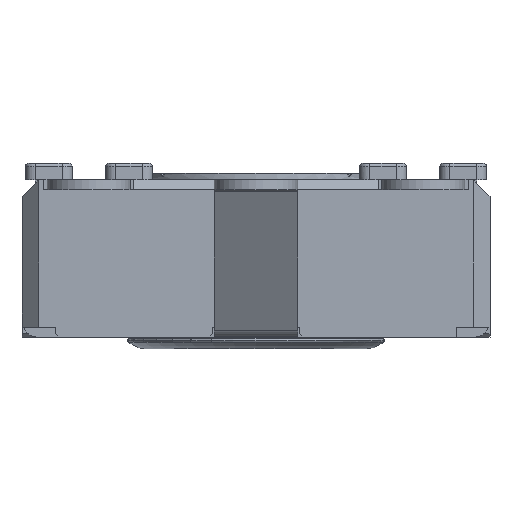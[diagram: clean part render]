
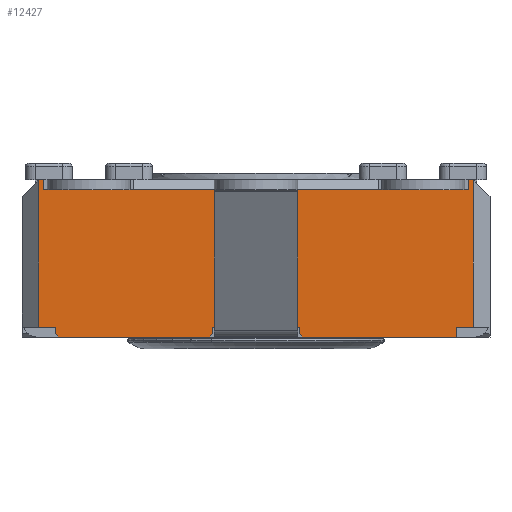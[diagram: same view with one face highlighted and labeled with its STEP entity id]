
A CAD part, front view. The second image highlights one B-rep face of the part: STEP entity #12427.
In plain terms, the highlighted planar face has unit normal (0, -1, 0).
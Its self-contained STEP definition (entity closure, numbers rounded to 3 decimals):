
#396=PLANE('',#13283);
#974=FACE_OUTER_BOUND('',#1647,.T.);
#1647=EDGE_LOOP('',(#10012,#10013,#10014,#10015,#10016,#10017,#10018,#10019,
#10020,#10021,#10022,#10023,#10024,#10025,#10026,#10027,#10028,#10029,#10030,
#10031,#10032,#10033,#10034,#10035,#10036,#10037,#10038));
#2038=LINE('',#17411,#3455);
#2108=LINE('',#17601,#3525);
#2109=LINE('',#17603,#3526);
#2110=LINE('',#17606,#3527);
#2115=LINE('',#17616,#3532);
#2177=LINE('',#17747,#3594);
#2184=LINE('',#17764,#3601);
#2313=LINE('',#18168,#3730);
#2328=LINE('',#18197,#3745);
#2396=LINE('',#18349,#3813);
#2404=LINE('',#18362,#3821);
#2520=LINE('',#18733,#3937);
#2727=LINE('',#19257,#4144);
#2732=LINE('',#19266,#4149);
#2735=LINE('',#19271,#4152);
#2822=LINE('',#19548,#4239);
#2830=LINE('',#19566,#4247);
#2836=LINE('',#19574,#4253);
#2837=LINE('',#19577,#4254);
#2838=LINE('',#19579,#4255);
#2839=LINE('',#19581,#4256);
#2840=LINE('',#19582,#4257);
#2841=LINE('',#19583,#4258);
#2842=LINE('',#19584,#4259);
#2843=LINE('',#19585,#4260);
#2844=LINE('',#19586,#4261);
#2845=LINE('',#19587,#4262);
#3455=VECTOR('',#13928,10.);
#3525=VECTOR('',#14084,10.);
#3526=VECTOR('',#14087,10.);
#3527=VECTOR('',#14090,10.);
#3532=VECTOR('',#14095,10.);
#3594=VECTOR('',#14207,10.);
#3601=VECTOR('',#14220,10.);
#3730=VECTOR('',#14645,10.);
#3745=VECTOR('',#14674,10.);
#3813=VECTOR('',#14824,10.);
#3821=VECTOR('',#14834,10.);
#3937=VECTOR('',#15098,10.);
#4144=VECTOR('',#15447,10.);
#4149=VECTOR('',#15452,10.);
#4152=VECTOR('',#15457,10.);
#4239=VECTOR('',#15682,10.);
#4247=VECTOR('',#15694,10.);
#4253=VECTOR('',#15704,10.);
#4254=VECTOR('',#15707,10.);
#4255=VECTOR('',#15708,10.);
#4256=VECTOR('',#15709,10.);
#4257=VECTOR('',#15710,10.);
#4258=VECTOR('',#15711,10.);
#4259=VECTOR('',#15712,10.);
#4260=VECTOR('',#15713,10.);
#4261=VECTOR('',#15714,10.);
#4262=VECTOR('',#15715,10.);
#5153=VERTEX_POINT('',#17288);
#5204=VERTEX_POINT('',#17410);
#5232=VERTEX_POINT('',#17486);
#5255=VERTEX_POINT('',#17536);
#5277=VERTEX_POINT('',#17587);
#5279=VERTEX_POINT('',#17593);
#5282=VERTEX_POINT('',#17605);
#5286=VERTEX_POINT('',#17613);
#5287=VERTEX_POINT('',#17615);
#5331=VERTEX_POINT('',#17745);
#5338=VERTEX_POINT('',#17763);
#5464=VERTEX_POINT('',#18165);
#5465=VERTEX_POINT('',#18167);
#5471=VERTEX_POINT('',#18194);
#5472=VERTEX_POINT('',#18196);
#5515=VERTEX_POINT('',#18348);
#5519=VERTEX_POINT('',#18360);
#5639=VERTEX_POINT('',#18729);
#5790=VERTEX_POINT('',#19256);
#5794=VERTEX_POINT('',#19264);
#5847=VERTEX_POINT('',#19546);
#5848=VERTEX_POINT('',#19547);
#5855=VERTEX_POINT('',#19564);
#5856=VERTEX_POINT('',#19565);
#5857=VERTEX_POINT('',#19576);
#5858=VERTEX_POINT('',#19578);
#5859=VERTEX_POINT('',#19580);
#6391=EDGE_CURVE('',#5204,#5153,#2038,.T.);
#6485=EDGE_CURVE('',#5277,#5232,#2108,.T.);
#6486=EDGE_CURVE('',#5279,#5255,#2109,.T.);
#6487=EDGE_CURVE('',#5282,#5204,#2110,.T.);
#6492=EDGE_CURVE('',#5287,#5286,#2115,.T.);
#6559=EDGE_CURVE('',#5232,#5331,#2177,.T.);
#6567=EDGE_CURVE('',#5338,#5277,#2184,.T.);
#6770=EDGE_CURVE('',#5465,#5464,#2313,.T.);
#6785=EDGE_CURVE('',#5472,#5471,#2328,.T.);
#6862=EDGE_CURVE('',#5515,#5279,#2396,.T.);
#6870=EDGE_CURVE('',#5255,#5519,#2404,.T.);
#7024=EDGE_CURVE('',#5472,#5639,#2520,.T.);
#7252=EDGE_CURVE('',#5790,#5639,#2727,.T.);
#7257=EDGE_CURVE('',#5153,#5794,#2732,.T.);
#7260=EDGE_CURVE('',#5287,#5464,#2735,.T.);
#7366=EDGE_CURVE('',#5847,#5848,#2822,.T.);
#7374=EDGE_CURVE('',#5855,#5856,#2830,.T.);
#7380=EDGE_CURVE('',#5282,#5847,#2836,.T.);
#7381=EDGE_CURVE('',#5794,#5857,#2837,.T.);
#7382=EDGE_CURVE('',#5858,#5857,#2838,.T.);
#7383=EDGE_CURVE('',#5858,#5859,#2839,.T.);
#7384=EDGE_CURVE('',#5859,#5790,#2840,.T.);
#7385=EDGE_CURVE('',#5471,#5515,#2841,.T.);
#7386=EDGE_CURVE('',#5338,#5519,#2842,.T.);
#7387=EDGE_CURVE('',#5331,#5465,#2843,.T.);
#7388=EDGE_CURVE('',#5286,#5856,#2844,.T.);
#7389=EDGE_CURVE('',#5855,#5848,#2845,.T.);
#10012=ORIENTED_EDGE('',*,*,#7366,.F.);
#10013=ORIENTED_EDGE('',*,*,#7380,.F.);
#10014=ORIENTED_EDGE('',*,*,#6487,.T.);
#10015=ORIENTED_EDGE('',*,*,#6391,.T.);
#10016=ORIENTED_EDGE('',*,*,#7257,.T.);
#10017=ORIENTED_EDGE('',*,*,#7381,.T.);
#10018=ORIENTED_EDGE('',*,*,#7382,.F.);
#10019=ORIENTED_EDGE('',*,*,#7383,.T.);
#10020=ORIENTED_EDGE('',*,*,#7384,.T.);
#10021=ORIENTED_EDGE('',*,*,#7252,.T.);
#10022=ORIENTED_EDGE('',*,*,#7024,.F.);
#10023=ORIENTED_EDGE('',*,*,#6785,.T.);
#10024=ORIENTED_EDGE('',*,*,#7385,.T.);
#10025=ORIENTED_EDGE('',*,*,#6862,.T.);
#10026=ORIENTED_EDGE('',*,*,#6486,.T.);
#10027=ORIENTED_EDGE('',*,*,#6870,.T.);
#10028=ORIENTED_EDGE('',*,*,#7386,.F.);
#10029=ORIENTED_EDGE('',*,*,#6567,.T.);
#10030=ORIENTED_EDGE('',*,*,#6485,.T.);
#10031=ORIENTED_EDGE('',*,*,#6559,.T.);
#10032=ORIENTED_EDGE('',*,*,#7387,.T.);
#10033=ORIENTED_EDGE('',*,*,#6770,.T.);
#10034=ORIENTED_EDGE('',*,*,#7260,.F.);
#10035=ORIENTED_EDGE('',*,*,#6492,.T.);
#10036=ORIENTED_EDGE('',*,*,#7388,.T.);
#10037=ORIENTED_EDGE('',*,*,#7374,.F.);
#10038=ORIENTED_EDGE('',*,*,#7389,.T.);
#12427=ADVANCED_FACE('',(#974),#396,.T.);
#13283=AXIS2_PLACEMENT_3D('',#19575,#15705,#15706);
#13928=DIRECTION('',(1.,0.,0.));
#14084=DIRECTION('',(-1.,0.,0.));
#14087=DIRECTION('',(-1.,0.,0.));
#14090=DIRECTION('',(1.,0.,0.));
#14095=DIRECTION('',(1.,0.,0.));
#14207=DIRECTION('',(-1.,0.,0.));
#14220=DIRECTION('',(-1.,0.,0.));
#14645=DIRECTION('',(-1.,0.,0.));
#14674=DIRECTION('',(-1.,0.,0.));
#14824=DIRECTION('',(-1.,0.,0.));
#14834=DIRECTION('',(-1.,0.,0.));
#15098=DIRECTION('',(0.,0.,-1.));
#15447=DIRECTION('',(1.,0.,0.));
#15452=DIRECTION('',(1.,0.,0.));
#15457=DIRECTION('',(0.,0.,1.));
#15682=DIRECTION('',(-0.707,0.,-0.707));
#15694=DIRECTION('',(-0.707,0.,0.707));
#15704=DIRECTION('',(0.,0.,-1.));
#15705=DIRECTION('center_axis',(0.,-1.,0.));
#15706=DIRECTION('ref_axis',(0.,0.,-1.));
#15707=DIRECTION('',(0.,0.,-1.));
#15708=DIRECTION('',(-0.707,0.,0.707));
#15709=DIRECTION('',(1.,0.,0.));
#15710=DIRECTION('',(0.,0.,1.));
#15711=DIRECTION('',(0.,0.,-1.));
#15712=DIRECTION('',(1.,0.,0.));
#15713=DIRECTION('',(0.,0.,1.));
#15714=DIRECTION('',(0.,0.,-1.));
#15715=DIRECTION('',(1.,0.,0.));
#17288=CARTESIAN_POINT('',(-6.217,-9.898,0.));
#17410=CARTESIAN_POINT('',(-8.717,-9.898,0.));
#17411=CARTESIAN_POINT('',(-14.467,-9.898,0.));
#17486=CARTESIAN_POINT('',(-13.717,-9.898,4.1));
#17536=CARTESIAN_POINT('',(-3.717,-9.898,4.1));
#17587=CARTESIAN_POINT('',(-11.217,-9.898,4.1));
#17593=CARTESIAN_POINT('',(-1.217,-9.898,4.1));
#17601=CARTESIAN_POINT('',(-3.944,-9.898,4.1));
#17603=CARTESIAN_POINT('',(-1.862,-9.898,4.1));
#17605=CARTESIAN_POINT('',(-8.767,-9.898,0.));
#17606=CARTESIAN_POINT('',(-14.467,-9.898,0.));
#17613=CARTESIAN_POINT('',(-13.467,-9.898,0.));
#17615=CARTESIAN_POINT('',(-13.967,-9.898,0.));
#17616=CARTESIAN_POINT('',(-7.245,-9.898,0.));
#17745=CARTESIAN_POINT('',(-13.817,-9.898,4.1));
#17747=CARTESIAN_POINT('',(-3.944,-9.898,4.1));
#17763=CARTESIAN_POINT('',(-11.117,-9.898,4.1));
#17764=CARTESIAN_POINT('',(-3.944,-9.898,4.1));
#18165=CARTESIAN_POINT('',(-13.967,-9.898,4.4));
#18167=CARTESIAN_POINT('',(-13.817,-9.898,4.4));
#18168=CARTESIAN_POINT('',(-14.467,-9.898,4.4));
#18194=CARTESIAN_POINT('',(-1.117,-9.898,4.4));
#18196=CARTESIAN_POINT('',(-0.967,-9.898,4.4));
#18197=CARTESIAN_POINT('',(-14.467,-9.898,4.4));
#18348=CARTESIAN_POINT('',(-1.117,-9.898,4.1));
#18349=CARTESIAN_POINT('',(-1.862,-9.898,4.1));
#18360=CARTESIAN_POINT('',(-3.817,-9.898,4.1));
#18362=CARTESIAN_POINT('',(-1.862,-9.898,4.1));
#18729=CARTESIAN_POINT('',(-0.967,-9.898,0.));
#18733=CARTESIAN_POINT('',(-0.967,-9.898,0.));
#19256=CARTESIAN_POINT('',(-1.467,-9.898,0.));
#19257=CARTESIAN_POINT('',(-0.646,-9.898,0.));
#19264=CARTESIAN_POINT('',(-6.167,-9.898,0.));
#19266=CARTESIAN_POINT('',(-14.467,-9.898,0.));
#19271=CARTESIAN_POINT('',(-13.967,-9.898,0.));
#19546=CARTESIAN_POINT('',(-8.767,-9.898,-0.2));
#19547=CARTESIAN_POINT('',(-8.867,-9.898,-0.3));
#19548=CARTESIAN_POINT('',(-6.667,-9.898,1.9));
#19564=CARTESIAN_POINT('',(-13.367,-9.898,-0.3));
#19565=CARTESIAN_POINT('',(-13.467,-9.898,-0.2));
#19566=CARTESIAN_POINT('',(-10.242,-9.898,-3.425));
#19574=CARTESIAN_POINT('',(-8.767,-9.898,0.));
#19575=CARTESIAN_POINT('Origin',(-0.467,-9.898,0.));
#19576=CARTESIAN_POINT('',(-6.167,-9.898,-0.2));
#19577=CARTESIAN_POINT('',(-6.167,-9.898,0.));
#19578=CARTESIAN_POINT('',(-6.067,-9.898,-0.3));
#19579=CARTESIAN_POINT('',(-4.767,-9.898,-1.6));
#19580=CARTESIAN_POINT('',(-1.467,-9.898,-0.3));
#19581=CARTESIAN_POINT('',(-0.467,-9.898,-0.3));
#19582=CARTESIAN_POINT('',(-1.467,-9.898,-0.15));
#19583=CARTESIAN_POINT('',(-1.117,-9.898,2.2));
#19584=CARTESIAN_POINT('',(-3.967,-9.898,4.1));
#19585=CARTESIAN_POINT('',(-13.817,-9.898,2.2));
#19586=CARTESIAN_POINT('',(-13.467,-9.898,-0.15));
#19587=CARTESIAN_POINT('',(-0.467,-9.898,-0.3));
